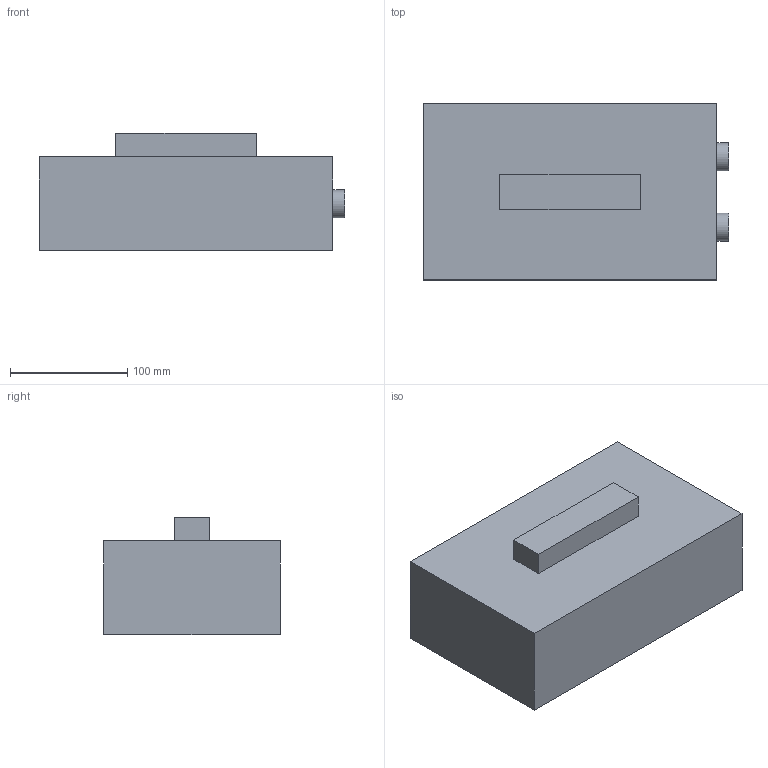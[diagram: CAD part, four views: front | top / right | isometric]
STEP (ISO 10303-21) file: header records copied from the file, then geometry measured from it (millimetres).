
FILE_DESCRIPTION(/* description */ (''),/* implementation_level */ '2;1');
FILE_NAME(/* name */ 'suit_battery.step',/* time_stamp */ '2026-11-14T21:13:13+01:00',/* author */ ('malgo'),/* organization */ (''),/* preprocessor_version */ 'ST-DEVELOPER v20.1',/* originating_system */ 'Autodesk Inventor 2026',/* authorisation */ '');
FILE_SCHEMA (('AUTOMOTIVE_DESIGN { 1 0 10303 214 3 1 1 }'));
Length unit declared in the file: metre
Products named in the file (1): suit_battery
Bounding box: 260 x 150 x 100 mm (x, y, z)
Volume: 3081047.8 mm3; surface area: 146508 mm2
Topology: 1 solids, 1 shells, 15 faces, 30 edges, 20 vertices
Faces by surface type: plane 13, cylinder 2
Full cylindrical faces by diameter (mm): 24 x2
Entity records: 425 total; most frequent: DIRECTION 66, CARTESIAN_POINT 66, ORIENTED_EDGE 60, EDGE_CURVE 30, LINE 26, VECTOR 26, VERTEX_POINT 20, AXIS2_PLACEMENT_3D 20
